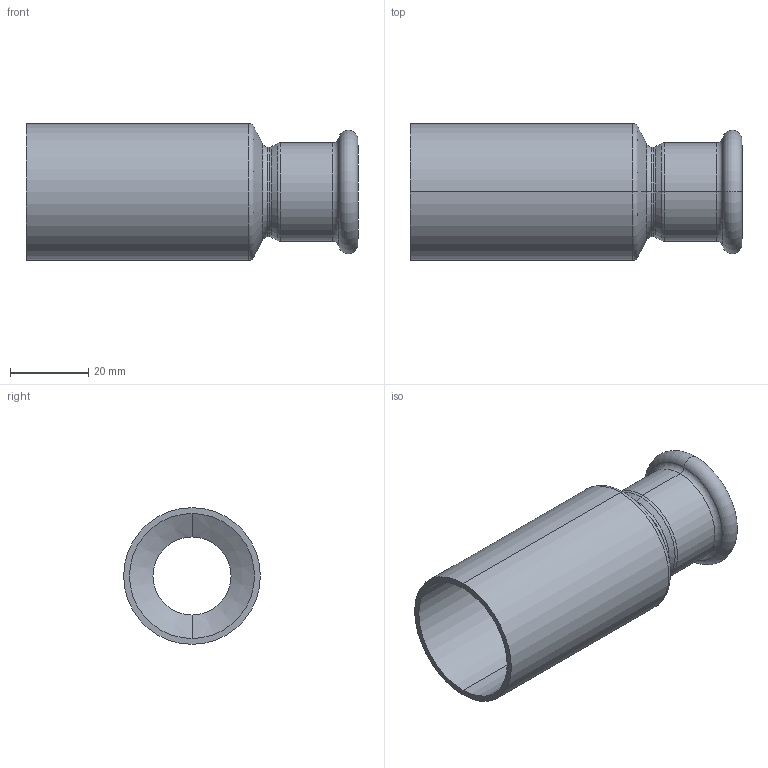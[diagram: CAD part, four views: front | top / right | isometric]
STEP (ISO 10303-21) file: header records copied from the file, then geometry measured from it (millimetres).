
FILE_DESCRIPTION (( 'STEP AP214' ), '1' );
FILE_NAME ('R35220B.STEP', '2025-08-18T00:15:43', ( '' ), ( '' ), 'SwSTEP 2.0', 'SolidWorks 2020', '' );
FILE_SCHEMA (( 'AUTOMOTIVE_DESIGN' ));
Length unit declared in the file: millimetre
Products named in the file (1): R35220B
Bounding box: 85 x 35 x 35 mm (x, y, z)
Volume: 13608 mm3; surface area: 17922.5 mm2
Topology: 1 solids, 1 shells, 43 faces, 86 edges, 46 vertices
Faces by surface type: torus 16, cylinder 14, cone 10, plane 3
Entity records: 1192 total; most frequent: DIRECTION 236, CARTESIAN_POINT 176, ORIENTED_EDGE 172, AXIS2_PLACEMENT_3D 106, EDGE_CURVE 86, CIRCLE 62, EDGE_LOOP 46, VERTEX_POINT 46
